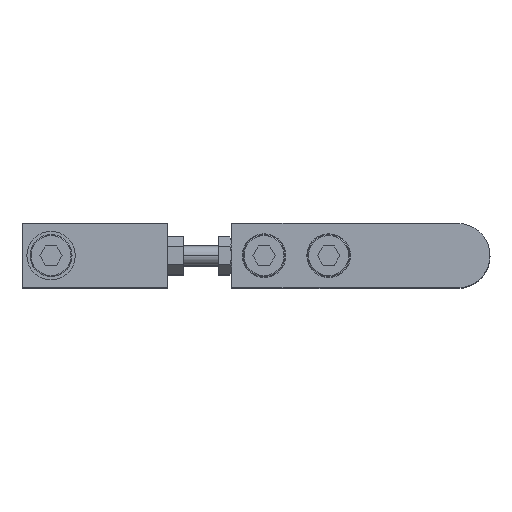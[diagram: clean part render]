
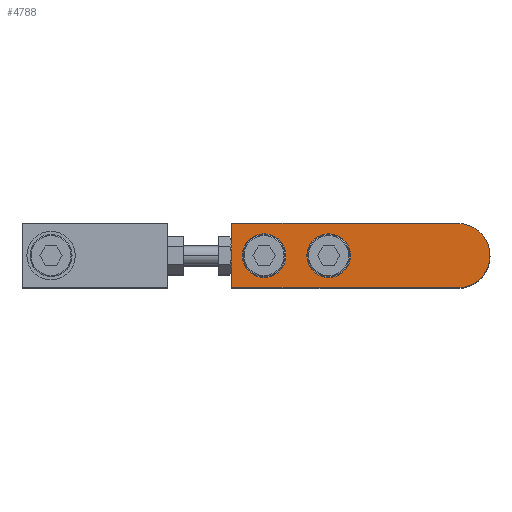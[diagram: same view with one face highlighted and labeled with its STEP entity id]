
A CAD part, top view. The second image highlights one B-rep face of the part: STEP entity #4788.
In plain terms, the highlighted planar face has unit normal (0, 0, 1) as drawn and (0, 0, -1) by its records, which use the part's own axes.
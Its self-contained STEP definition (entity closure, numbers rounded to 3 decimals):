
#12 = AXIS2_PLACEMENT_3D ( 'NONE', #4163, #1794, #7036 ) ;
#206 = DIRECTION ( 'NONE',  ( -1., 0., 0. ) ) ;
#284 = VERTEX_POINT ( 'NONE', #3102 ) ;
#377 = AXIS2_PLACEMENT_3D ( 'NONE', #6268, #5041, #1486 ) ;
#425 = DIRECTION ( 'NONE',  ( -1., 0., 0. ) ) ;
#478 = LINE ( 'NONE', #3209, #4184 ) ;
#592 = DIRECTION ( 'NONE',  ( 1., 0., 0. ) ) ;
#612 = ORIENTED_EDGE ( 'NONE', *, *, #2382, .F. ) ;
#648 = EDGE_CURVE ( 'NONE', #4251, #284, #6601, .T. ) ;
#694 = DIRECTION ( 'NONE',  ( 1., 0., 0. ) ) ;
#807 = DIRECTION ( 'NONE',  ( 1., 0., 0. ) ) ;
#813 = ORIENTED_EDGE ( 'NONE', *, *, #3890, .F. ) ;
#972 = DIRECTION ( 'NONE',  ( 0., 0., -1. ) ) ;
#1480 = CARTESIAN_POINT ( 'NONE',  ( 60., 0., -5. ) ) ;
#1486 = DIRECTION ( 'NONE',  ( -1., 0., 0. ) ) ;
#1628 = CIRCLE ( 'NONE', #6334, 6.75 ) ;
#1794 = DIRECTION ( 'NONE',  ( 0., 0., -1. ) ) ;
#1798 = AXIS2_PLACEMENT_3D ( 'NONE', #6650, #3749, #807 ) ;
#1914 = VERTEX_POINT ( 'NONE', #3246 ) ;
#2382 = EDGE_CURVE ( 'NONE', #6821, #4650, #6128, .T. ) ;
#2392 = EDGE_LOOP ( 'NONE', ( #4004, #3374 ) ) ;
#2418 = CARTESIAN_POINT ( 'NONE',  ( 0., 0., -5. ) ) ;
#2419 = DIRECTION ( 'NONE',  ( 0., 0., -1. ) ) ;
#2519 = VERTEX_POINT ( 'NONE', #3381 ) ;
#2594 = PLANE ( 'NONE',  #1798 ) ;
#2610 = VECTOR ( 'NONE', #694, 1000. ) ;
#2644 = VERTEX_POINT ( 'NONE', #2678 ) ;
#2678 = CARTESIAN_POINT ( 'NONE',  ( 0., -10., -5. ) ) ;
#2899 = LINE ( 'NONE', #6490, #2610 ) ;
#2952 = ORIENTED_EDGE ( 'NONE', *, *, #648, .F. ) ;
#3102 = CARTESIAN_POINT ( 'NONE',  ( 70., 10., -5. ) ) ;
#3209 = CARTESIAN_POINT ( 'NONE',  ( 0., 10., -5. ) ) ;
#3246 = CARTESIAN_POINT ( 'NONE',  ( 66.75, 0., -5. ) ) ;
#3279 = CARTESIAN_POINT ( 'NONE',  ( 0., 10., -5. ) ) ;
#3374 = ORIENTED_EDGE ( 'NONE', *, *, #5352, .F. ) ;
#3381 = CARTESIAN_POINT ( 'NONE',  ( 53.25, 0., -5. ) ) ;
#3434 = VECTOR ( 'NONE', #4914, 1000. ) ;
#3538 = DIRECTION ( 'NONE',  ( 0., 0., 1. ) ) ;
#3572 = EDGE_CURVE ( 'NONE', #2644, #4251, #2899, .T. ) ;
#3749 = DIRECTION ( 'NONE',  ( 0., 0., 1. ) ) ;
#3890 = EDGE_CURVE ( 'NONE', #4650, #2644, #7021, .T. ) ;
#3909 = AXIS2_PLACEMENT_3D ( 'NONE', #1480, #972, #425 ) ;
#4004 = ORIENTED_EDGE ( 'NONE', *, *, #6682, .F. ) ;
#4057 = VERTEX_POINT ( 'NONE', #6551 ) ;
#4163 = CARTESIAN_POINT ( 'NONE',  ( 60., 0., -5. ) ) ;
#4184 = VECTOR ( 'NONE', #206, 1000. ) ;
#4225 = CIRCLE ( 'NONE', #12, 6.75 ) ;
#4246 = DIRECTION ( 'NONE',  ( -1., 0., 0. ) ) ;
#4251 = VERTEX_POINT ( 'NONE', #7395 ) ;
#4650 = VERTEX_POINT ( 'NONE', #4828 ) ;
#4715 = EDGE_CURVE ( 'NONE', #284, #6821, #478, .T. ) ;
#4750 = FACE_OUTER_BOUND ( 'NONE', #5338, .T. ) ;
#4788 = ADVANCED_FACE ( 'NONE', ( #4915, #6535, #4750 ), #2594, .F. ) ;
#4828 = CARTESIAN_POINT ( 'NONE',  ( -10., 0., -5. ) ) ;
#4914 = DIRECTION ( 'NONE',  ( 0., 1., 0. ) ) ;
#4915 = FACE_BOUND ( 'NONE', #6244, .T. ) ;
#4951 = DIRECTION ( 'NONE',  ( 1., 0., 0. ) ) ;
#5041 = DIRECTION ( 'NONE',  ( 0., 0., -1. ) ) ;
#5277 = AXIS2_PLACEMENT_3D ( 'NONE', #7207, #6711, #4951 ) ;
#5338 = EDGE_LOOP ( 'NONE', ( #612, #5926, #2952, #6024, #813 ) ) ;
#5352 = EDGE_CURVE ( 'NONE', #7575, #4057, #1628, .T. ) ;
#5505 = CARTESIAN_POINT ( 'NONE',  ( 46.75, 0., -5. ) ) ;
#5612 = CIRCLE ( 'NONE', #3909, 6.75 ) ;
#5659 = AXIS2_PLACEMENT_3D ( 'NONE', #2418, #3538, #592 ) ;
#5926 = ORIENTED_EDGE ( 'NONE', *, *, #4715, .F. ) ;
#5957 = EDGE_CURVE ( 'NONE', #2519, #1914, #4225, .T. ) ;
#6024 = ORIENTED_EDGE ( 'NONE', *, *, #3572, .F. ) ;
#6128 = CIRCLE ( 'NONE', #5277, 10. ) ;
#6244 = EDGE_LOOP ( 'NONE', ( #7220, #6475 ) ) ;
#6268 = CARTESIAN_POINT ( 'NONE',  ( 40., 0., -5. ) ) ;
#6334 = AXIS2_PLACEMENT_3D ( 'NONE', #6552, #2419, #4246 ) ;
#6475 = ORIENTED_EDGE ( 'NONE', *, *, #7128, .F. ) ;
#6490 = CARTESIAN_POINT ( 'NONE',  ( 0., -10., -5. ) ) ;
#6535 = FACE_BOUND ( 'NONE', #2392, .T. ) ;
#6551 = CARTESIAN_POINT ( 'NONE',  ( 33.25, 0., -5. ) ) ;
#6552 = CARTESIAN_POINT ( 'NONE',  ( 40., 0., -5. ) ) ;
#6601 = LINE ( 'NONE', #6620, #3434 ) ;
#6620 = CARTESIAN_POINT ( 'NONE',  ( 70., 10., -5. ) ) ;
#6650 = CARTESIAN_POINT ( 'NONE',  ( 0., 0., -5. ) ) ;
#6682 = EDGE_CURVE ( 'NONE', #4057, #7575, #7077, .T. ) ;
#6711 = DIRECTION ( 'NONE',  ( 0., 0., 1. ) ) ;
#6821 = VERTEX_POINT ( 'NONE', #3279 ) ;
#7021 = CIRCLE ( 'NONE', #5659, 10. ) ;
#7036 = DIRECTION ( 'NONE',  ( -1., 0., 0. ) ) ;
#7077 = CIRCLE ( 'NONE', #377, 6.75 ) ;
#7128 = EDGE_CURVE ( 'NONE', #1914, #2519, #5612, .T. ) ;
#7207 = CARTESIAN_POINT ( 'NONE',  ( 0., 0., -5. ) ) ;
#7220 = ORIENTED_EDGE ( 'NONE', *, *, #5957, .F. ) ;
#7395 = CARTESIAN_POINT ( 'NONE',  ( 70., -10., -5. ) ) ;
#7575 = VERTEX_POINT ( 'NONE', #5505 ) ;
